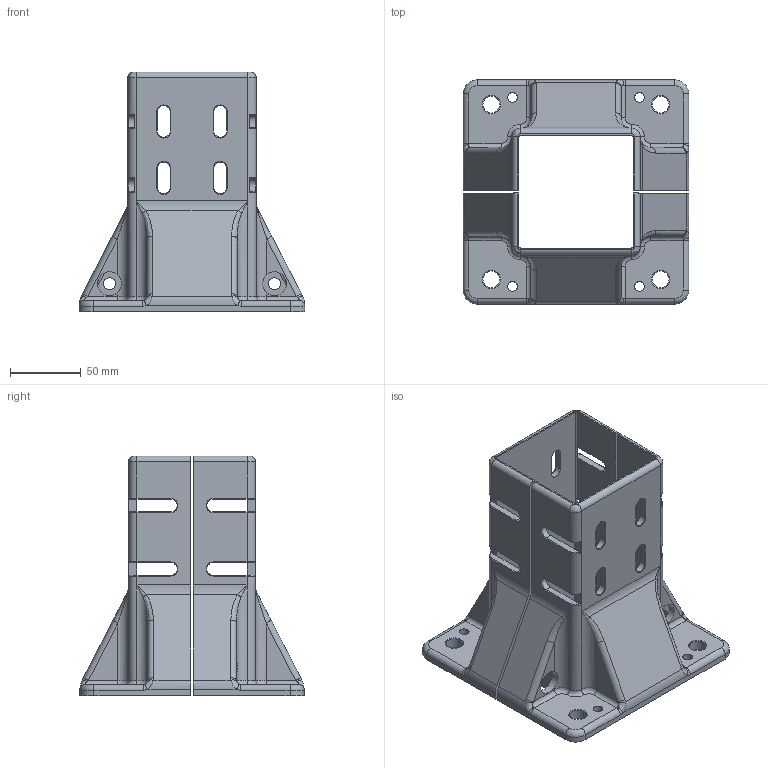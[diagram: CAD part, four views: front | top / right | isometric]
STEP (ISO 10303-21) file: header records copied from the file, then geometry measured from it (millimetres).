
FILE_DESCRIPTION(/* description */ ('STEP AP203'),/* implementation_level */ '2;1');
FILE_NAME(/* name */ 'C:\Users\Stefan.Nesic\Desktop\01010STEP\000Verifica\CORRETTI\PF8080.stp',/* time_stamp */ '2022-07-12T11:51:06+02:00',/* author */ ('stefan.nesic'),/* organization */ (''),/* preprocessor_version */ 'ST-DEVELOPER v18.1',/* originating_system */ 'Autodesk Inventor 2021',/* authorisation */ '');
FILE_SCHEMA (('CONFIG_CONTROL_DESIGN'));
Length unit declared in the file: millimetre
Products named in the file (2): PF8080; 084.409.014-L
Assembly tree (2 placements, depth 2):
  PF8080
    084.409.014-L  x2
Bounding box: 160 x 159 x 170 mm (x, y, z)
Volume: 485596.2 mm3; surface area: 187025.1 mm2
Topology: 2 solids, 2 shells, 416 faces, 1080 edges, 622 vertices
Faces by surface type: cylinder 178, plane 114, torus 68, bspline 36, sphere 20
Full cylindrical faces by diameter (mm): 6.8 x4, 8.5 x4, 12 x4, 17 x4
Entity records: 7975 total; most frequent: CARTESIAN_POINT 2830, DIRECTION 1119, ORIENTED_EDGE 1052, EDGE_CURVE 526, AXIS2_PLACEMENT_3D 435, VERTEX_POINT 311, LINE 249, VECTOR 249
